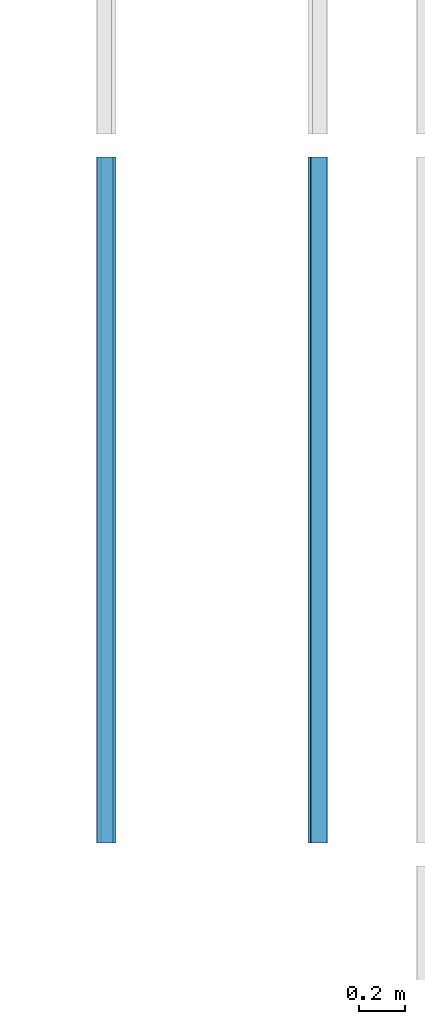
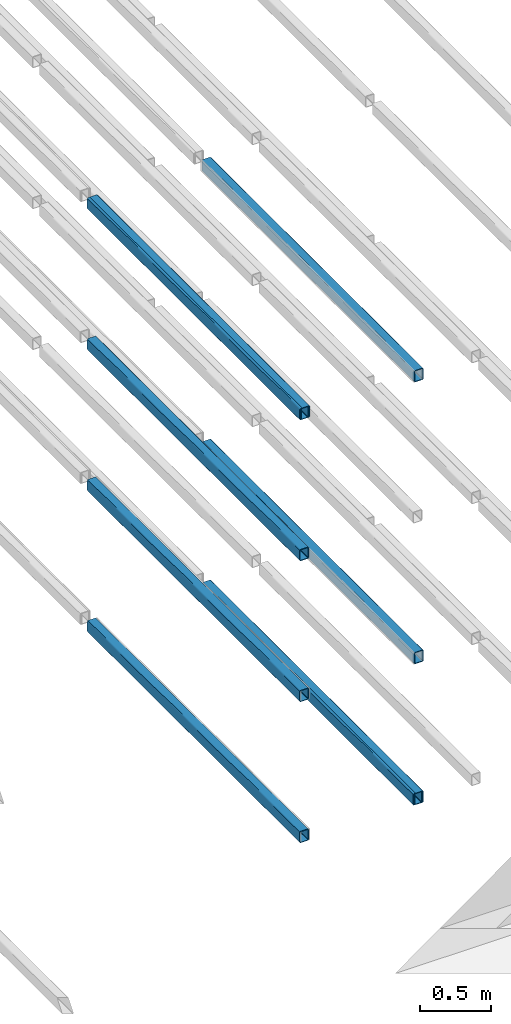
# One storey, part 20 of 290: 9 beams.
"""IFC2X3 building model written with IfcOpenShell, lengths in metres."""

import ifcopenshell
import ifcopenshell.guid

model = None  # the IFC model being written
_history = None  # IfcOwnerHistory: only IFC2X3 demands one
_inside = {}  # id of a spatial element -> (the spatial element, [elements in it])
_under = {}  # id of a project, library or spatial element -> (it, [spatial elements below it])
_declared = {}  # id of a project -> (the project, [libraries it declares])
_typed = {}  # id of a type object -> (the type object, [elements of that type])
_made_of = {}  # id of a material, layer set ... -> (it, [elements and type objects made of it])


def new_model(schema):
    """Start an empty IFC model of exactly this schema.

    Asked for "IFC4X3", IfcOpenShell would pick the latest addendum, in which some entities
    have other attributes; the version numbers below select the first issue.
    IFC2X3 requires an IfcOwnerHistory on every rooted entity: one is made here for all.
    """
    global model, _history
    if schema == "IFC4X3":
        model = ifcopenshell.file(schema_version=(4, 3, 0, 0))
    else:
        model = ifcopenshell.file(schema=schema)
    _inside.clear()
    _under.clear()
    _declared.clear()
    _typed.clear()
    _made_of.clear()
    _history = None
    if model.schema == "IFC2X3":
        org = make("IfcOrganization", Name="unknown")
        user = make(
            "IfcPersonAndOrganization",
            ThePerson=make("IfcPerson", FamilyName="unknown"),
            TheOrganization=org,
        )
        app = make(
            "IfcApplication",
            ApplicationDeveloper=org,
            Version="unknown",
            ApplicationFullName="unknown",
            ApplicationIdentifier="unknown",
        )
        _history = make(
            "IfcOwnerHistory",
            OwningUser=user,
            OwningApplication=app,
            ChangeAction="ADDED",
            CreationDate=0,
        )
    return model


def make(cls, **values):
    """One entity of the class cls with the attributes given. An attribute that is None is left unset."""
    return model.create_entity(
        cls, **{name: value for name, value in values.items() if value is not None}
    )


def entity(cls, *values):
    """Any entity or typed value of the class cls, its attributes in the order of the schema. None: left unset."""
    e = model.create_entity(cls)
    for i, value in enumerate(values):
        if value is not None:
            e[i] = value
    return e


def rooted(cls, **values):
    """An entity with a GlobalId (a new one), such as an element, a storey or a relation."""
    return make(cls, GlobalId=ifcopenshell.guid.new(), OwnerHistory=_history, **values)


def si_unit(unit_type, name, prefix=None):
    """IfcSIUnit, for example si_unit("LENGTHUNIT", "METRE", prefix="MILLI")."""
    return make("IfcSIUnit", UnitType=unit_type, Prefix=prefix, Name=name)


def converted_unit(unit_type, name, factor, base, dimensions=None, offset=None):
    """IfcConversionBasedUnit, such as the inch: factor (a typed value) times the base unit."""
    return make(
        "IfcConversionBasedUnit"
        if offset is None
        else "IfcConversionBasedUnitWithOffset",
        ConversionOffset=offset,
        Dimensions=None
        if dimensions is None
        else entity("IfcDimensionalExponents", *dimensions),
        UnitType=unit_type,
        Name=name,
        ConversionFactor=make(
            "IfcMeasureWithUnit", ValueComponent=factor, UnitComponent=base
        ),
    )


def derived_unit(unit_type, elements):
    """IfcDerivedUnit: a product of units, each with its exponent."""
    return make(
        "IfcDerivedUnit",
        Elements=[
            make("IfcDerivedUnitElement", Unit=unit, Exponent=power)
            for unit, power in elements
        ],
        UnitType=unit_type,
    )


def assignment(units):
    """IfcUnitAssignment: the units of a project."""
    return None if units is None else make("IfcUnitAssignment", Units=units)


def point(xyz):
    """IfcCartesianPoint."""
    return None if xyz is None else make("IfcCartesianPoint", Coordinates=xyz)


def direction(xyz):
    """IfcDirection."""
    return None if xyz is None else make("IfcDirection", DirectionRatios=xyz)


def frame(location, z_axis=None, x_axis=None):
    """IfcAxis2Placement3D, a coordinate frame: its origin and axes. An axis left out is left unset."""
    return make(
        "IfcAxis2Placement3D",
        Location=point(location),
        Axis=direction(z_axis),
        RefDirection=direction(x_axis),
    )


def frame_2d(location, x_axis=None):
    """IfcAxis2Placement2D, a coordinate frame in the plane: its origin and x axis."""
    return make(
        "IfcAxis2Placement2D", Location=point(location), RefDirection=direction(x_axis)
    )


def origin():
    """The frame at (0, 0, 0) with its axes left unset."""
    return frame((0.0, 0.0, 0.0))


def place(relative_to, where):
    """IfcLocalPlacement: puts the frame where relative to a parent placement (None: the world)."""
    return make(
        "IfcLocalPlacement", PlacementRelTo=relative_to, RelativePlacement=where
    )


def context(
    kind, dimensions, precision=None, world=None, true_north=None, identifier=None
):
    """IfcGeometricRepresentationContext, for example the 3D "Model" context."""
    return make(
        "IfcGeometricRepresentationContext",
        ContextIdentifier=identifier,
        ContextType=kind,
        CoordinateSpaceDimension=dimensions,
        Precision=precision,
        WorldCoordinateSystem=world,
        TrueNorth=true_north,
    )


def subcontext(parent, identifier, kind, view, scale=None):
    """IfcGeometricRepresentationSubContext, for example "Body" below "Model"."""
    return make(
        "IfcGeometricRepresentationSubContext",
        ContextIdentifier=identifier,
        ContextType=kind,
        ParentContext=parent,
        TargetScale=scale,
        TargetView=view,
    )


def project(units=None, contexts=None):
    """IfcProject with its units and contexts."""
    return rooted(
        "IfcProject",
        Name="project",
        RepresentationContexts=contexts,
        UnitsInContext=assignment(units),
    )


def spatial(cls, under=None, at=None, **own):
    """A site, building, storey or space (cls), placed at a placement, below another one or the project."""
    s = rooted(cls, ObjectPlacement=at, **own)
    if under is not None:
        _under.setdefault(under.id(), (under, []))[1].append(s)
    return s


def polyline(points):
    """IfcPolyline through the points."""
    return make("IfcPolyline", Points=[point(p) for p in points])


def circle_curve(where, radius):
    """IfcCircle in the frame where."""
    return make("IfcCircle", Position=where, Radius=radius)


def parameter(value):
    """IfcParameterValue: where a trimmed curve begins or ends, as a parameter of its basis curve."""
    return model.create_entity("IfcParameterValue", value)


def trimmed(basis, trim1, trim2, sense, master):
    """IfcTrimmedCurve: the piece of a basis curve between two trims."""
    return make(
        "IfcTrimmedCurve",
        BasisCurve=basis,
        Trim1=trim1,
        Trim2=trim2,
        SenseAgreement=sense,
        MasterRepresentation=master,
    )


def segment(curve, same_sense, transition):
    """IfcCompositeCurveSegment."""
    return make(
        "IfcCompositeCurveSegment",
        Transition=transition,
        SameSense=same_sense,
        ParentCurve=curve,
    )


def composite_curve(segments, self_intersect=None):
    """IfcCompositeCurve: segments joined end to end."""
    return make("IfcCompositeCurve", Segments=segments, SelfIntersect=self_intersect)


def outline(outer, holes=None, kind="AREA"):
    """IfcArbitraryClosedProfileDef: a profile drawn as a closed curve; with holes, ...WithVoids."""
    if holes is None:
        return make("IfcArbitraryClosedProfileDef", ProfileType=kind, OuterCurve=outer)
    return make(
        "IfcArbitraryProfileDefWithVoids",
        ProfileType=kind,
        OuterCurve=outer,
        InnerCurves=holes,
    )


def extrude(swept, where, along, depth):
    """IfcExtrudedAreaSolid: the profile swept, set in the frame where, extruded along a direction by depth."""
    return make(
        "IfcExtrudedAreaSolid",
        SweptArea=swept,
        Position=where,
        ExtrudedDirection=direction(along),
        Depth=depth,
    )


def shape(context_of_items, identifier, shape_type, items):
    """IfcShapeRepresentation: the items that make up one representation, for example the "Body"."""
    return make(
        "IfcShapeRepresentation",
        ContextOfItems=context_of_items,
        RepresentationIdentifier=identifier,
        RepresentationType=shape_type,
        Items=items,
    )


def material(Name=None, Category=None):
    """IfcMaterial."""
    return make("IfcMaterial", Name=Name, Category=Category)


def made_of(thing, what):
    """Note that an element or type object is made of a material, layer set ...; save() writes the relation."""
    if what is not None:
        _made_of.setdefault(what.id(), (what, []))[1].append(thing)
    return thing


def type_object(cls, material=None, **own):
    """A type object (cls), such as IfcWallType, which elements share."""
    return made_of(rooted(cls, **own), material)


def element(
    cls,
    number,
    at=None,
    inside=None,
    cuts=None,
    type_object=None,
    material=None,
    context=None,
    identifier="Body",
    shape_type=None,
    held_by="IfcProductDefinitionShape",
    body=None,
    shapes=None,
    **own,
):
    """One element of the class cls, such as IfcWall. Its Tag is "e" and its number.

    at: its placement. inside: the storey or other place that contains it. cuts: it is an
    opening in that element (IfcRelVoidsElement). A single representation is given by context,
    identifier, shape_type and body (its items); several are given by shapes. held_by: the class
    of the entity that holds the representations. save() writes the other relations.
    """
    e = rooted(cls, Tag="e%d" % number, ObjectPlacement=at, **own)
    if body is not None:
        shapes = [shape(context, identifier, shape_type, body)]
    if shapes is not None:
        e.Representation = make(held_by, Representations=shapes)
    if inside is not None:
        _inside.setdefault(inside.id(), (inside, []))[1].append(e)
    if cuts is not None:
        rooted(
            "IfcRelVoidsElement", RelatingBuildingElement=cuts, RelatedOpeningElement=e
        )
    if type_object is not None:
        _typed.setdefault(type_object.id(), (type_object, []))[1].append(e)
    return made_of(e, material)


def aggregate(whole, parts):
    """IfcRelAggregates: a whole, such as a stair, and the parts it consists of."""
    return rooted("IfcRelAggregates", RelatingObject=whole, RelatedObjects=parts)


def save(model, path):
    """Write the relations noted so far, then the file.

    IfcRelAggregates (storeys below a building ...), IfcRelContainedInSpatialStructure (elements
    in a storey), IfcRelDefinesByType, IfcRelAssociatesMaterial and IfcRelDeclares: one each for
    every whole, place, type object, material and project.
    """
    for whole, parts in _under.values():
        aggregate(whole, parts)
    for where, things in _inside.values():
        rooted(
            "IfcRelContainedInSpatialStructure",
            RelatedElements=things,
            RelatingStructure=where,
        )
    for kind, things in _typed.values():
        rooted("IfcRelDefinesByType", RelatedObjects=things, RelatingType=kind)
    for what, things in _made_of.values():
        rooted("IfcRelAssociatesMaterial", RelatedObjects=things, RelatingMaterial=what)
    for by, libraries in _declared.values():
        rooted("IfcRelDeclares", RelatingContext=by, RelatedDefinitions=libraries)
    model.write(path)


model = new_model("IFC2X3")

# Units and contexts
model_context = context("Model", 3, precision=1e-05, world=origin(), true_north=direction((6.12303176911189e-17, 1.0)))
body_context = subcontext(model_context, "Body", "Model", "MODEL_VIEW")
ifc_project = project(units=[si_unit("LENGTHUNIT", "METRE"), si_unit("AREAUNIT", "SQUARE_METRE"), si_unit("VOLUMEUNIT", "CUBIC_METRE"), converted_unit("PLANEANGLEUNIT", "DEGREE", entity("IfcRatioMeasure", 0.0174532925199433), si_unit("PLANEANGLEUNIT", "RADIAN"), dimensions=[0, 0, 0, 0, 0, 0, 0]), si_unit("MASSUNIT", "GRAM", prefix="KILO"), derived_unit("MASSDENSITYUNIT", [(si_unit("MASSUNIT", "GRAM", prefix="KILO"), 1), (si_unit("LENGTHUNIT", "METRE"), -3)]), derived_unit("MOMENTOFINERTIAUNIT", [(si_unit("LENGTHUNIT", "METRE"), 4)]), si_unit("TIMEUNIT", "SECOND"), si_unit("FREQUENCYUNIT", "HERTZ"), si_unit("THERMODYNAMICTEMPERATUREUNIT", "DEGREE_CELSIUS"), derived_unit("THERMALTRANSMITTANCEUNIT", [(si_unit("MASSUNIT", "GRAM", prefix="KILO"), 1), (si_unit("THERMODYNAMICTEMPERATUREUNIT", "KELVIN"), -1), (si_unit("TIMEUNIT", "SECOND"), -3)]), derived_unit("VOLUMETRICFLOWRATEUNIT", [(si_unit("LENGTHUNIT", "METRE"), 3), (si_unit("TIMEUNIT", "SECOND"), -1)]), si_unit("ELECTRICCURRENTUNIT", "AMPERE"), si_unit("ELECTRICVOLTAGEUNIT", "VOLT"), si_unit("POWERUNIT", "WATT"), si_unit("FORCEUNIT", "NEWTON", prefix="KILO"), si_unit("ILLUMINANCEUNIT", "LUX"), si_unit("LUMINOUSFLUXUNIT", "LUMEN"), si_unit("LUMINOUSINTENSITYUNIT", "CANDELA"), derived_unit("USERDEFINED", [(si_unit("MASSUNIT", "GRAM", prefix="KILO"), -1), (si_unit("LENGTHUNIT", "METRE"), -2), (si_unit("TIMEUNIT", "SECOND"), 3), (si_unit("LUMINOUSFLUXUNIT", "LUMEN"), 1)]), derived_unit("LINEARVELOCITYUNIT", [(si_unit("LENGTHUNIT", "METRE"), 1), (si_unit("TIMEUNIT", "SECOND"), -1)]), si_unit("PRESSUREUNIT", "PASCAL"), derived_unit("USERDEFINED", [(si_unit("LENGTHUNIT", "METRE"), -2), (si_unit("MASSUNIT", "GRAM", prefix="KILO"), 1), (si_unit("TIMEUNIT", "SECOND"), -2)]), derived_unit("LINEARFORCEUNIT", [(si_unit("MASSUNIT", "GRAM", prefix="KILO"), 1), (si_unit("LENGTHUNIT", "METRE"), 1), (si_unit("TIMEUNIT", "SECOND"), -2), (si_unit("LENGTHUNIT", "METRE"), -1)]), derived_unit("PLANARFORCEUNIT", [(si_unit("MASSUNIT", "GRAM", prefix="KILO"), 1), (si_unit("LENGTHUNIT", "METRE"), 1), (si_unit("TIMEUNIT", "SECOND"), -2), (si_unit("LENGTHUNIT", "METRE"), -2)])], contexts=[model_context])

# Site, building, storey
site_placement = place(None, origin())
site = spatial("IfcSite", under=ifc_project, at=site_placement, Name="Default", CompositionType="ELEMENT")
building_placement = place(site_placement, origin())
building = spatial("IfcBuilding", under=site, at=building_placement, CompositionType="ELEMENT")
storey_placement = place(building_placement, frame((0.0, 0.0, 4.0)))
storey = spatial("IfcBuildingStorey", under=building, at=storey_placement, Name="01_OG", CompositionType="ELEMENT", Elevation=4.0)

# Beams
ifc_material = material(Name="Metall - Baustahl S235 blau")
beam_type = type_object("IfcBeamType", Name="RHS Träger (EN 10219-2):RHS 100 x 75 x 5", PredefinedType="NOTDEFINED")
beam_1_placement = place(storey_placement, frame((-202.105111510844, 27.148088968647, 2.445), z_axis=(0.0, 0.0, 1.0), x_axis=(0.0, 1.0, 0.0)))
element("IfcBeam", 1, at=beam_1_placement, inside=storey, type_object=beam_type, material=ifc_material, Name="RHS Träger (EN 10219-2):RHS 100 x 75 x 5", ObjectType="RHS Träger (EN 10219-2):RHS 100 x 75 x 5", context=body_context, shape_type="SweptSolid", body=[
    extrude(outline(composite_curve([segment(trimmed(circle_curve(frame_2d((-0.0274999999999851, -0.0399999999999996), x_axis=(1.0, 0.0)), 0.01), [parameter(180.0)], [parameter(270.0)], True, "PARAMETER"), True, "CONTINUOUS"), segment(polyline([(-0.0274999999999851, -0.0499999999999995), (0.0274999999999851, -0.0499999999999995)]), True, "CONTINUOUS"), segment(trimmed(circle_curve(frame_2d((0.0274999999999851, -0.0399999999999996), x_axis=(1.0, 0.0)), 0.01), [parameter(270.0)], [parameter(5.08888749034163e-14)], True, "PARAMETER"), True, "CONTINUOUS"), segment(polyline([(0.0375000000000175, -0.0399999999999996), (0.0375000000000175, 0.0399999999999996)]), True, "CONTINUOUS"), segment(trimmed(circle_curve(frame_2d((0.0274999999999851, 0.0399999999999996), x_axis=(1.0, 0.0)), 0.01), [parameter(360.0)], [parameter(89.9999999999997)], True, "PARAMETER"), True, "CONTINUOUS"), segment(polyline([(0.0274999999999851, 0.0500000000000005), (-0.0274999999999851, 0.0500000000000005)]), True, "CONTINUOUS"), segment(trimmed(circle_curve(frame_2d((-0.0274999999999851, 0.0399999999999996), x_axis=(1.0, 0.0)), 0.01), [parameter(90.0000000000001)], [parameter(180.0)], True, "PARAMETER"), True, "CONTINUOUS"), segment(polyline([(-0.0374999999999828, 0.0399999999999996), (-0.0374999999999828, -0.0399999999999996)]), True, "CONTINUOUS")], self_intersect=False), holes=[composite_curve([segment(polyline([(0.0274999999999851, -0.0450000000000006), (-0.0274999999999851, -0.0450000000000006)]), True, "CONTINUOUS"), segment(trimmed(circle_curve(frame_2d((-0.0274999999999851, -0.0400000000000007), x_axis=(1.0, 0.0)), 0.005), [parameter(180.0)], [parameter(270.0)], True, "PARAMETER"), False, "CONTINUOUS"), segment(polyline([(-0.0325000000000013, -0.0400000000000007), (-0.0325000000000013, 0.0399999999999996)]), True, "CONTINUOUS"), segment(trimmed(circle_curve(frame_2d((-0.0274999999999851, 0.0399999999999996), x_axis=(1.0, 0.0)), 0.005), [parameter(90.0000000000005)], [parameter(180.0)], True, "PARAMETER"), False, "CONTINUOUS"), segment(polyline([(-0.0274999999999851, 0.0449999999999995), (0.0274999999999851, 0.0449999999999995)]), True, "CONTINUOUS"), segment(trimmed(circle_curve(frame_2d((0.0274999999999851, 0.0399999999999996), x_axis=(1.0, 0.0)), 0.005), [parameter(0.0)], [parameter(90.0000000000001)], True, "PARAMETER"), False, "CONTINUOUS"), segment(polyline([(0.0325000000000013, 0.0399999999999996), (0.0325000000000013, -0.0400000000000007)]), True, "CONTINUOUS"), segment(trimmed(circle_curve(frame_2d((0.0274999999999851, -0.0400000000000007), x_axis=(1.0, 0.0)), 0.005), [parameter(270.0)], [parameter(4.07110999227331e-13)], True, "PARAMETER"), False, "CONTINUOUS")], self_intersect=False)]), frame((0.000100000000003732, 0.0375000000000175, -0.0500000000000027), z_axis=(1.0, 0.0, 0.0), x_axis=(0.0, -1.0, 0.0)), (0.0, 0.0, 1.0), 2.9998),
])
beam_2_placement = place(storey_placement, frame((-201.255111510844, 27.148088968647, -1.2), z_axis=(0.0, 0.0, 1.0), x_axis=(0.0, 1.0, 0.0)))
element("IfcBeam", 2, at=beam_2_placement, inside=storey, type_object=beam_type, material=ifc_material, Name="RHS Träger (EN 10219-2):RHS 100 x 75 x 5", ObjectType="RHS Träger (EN 10219-2):RHS 100 x 75 x 5", context=body_context, shape_type="SweptSolid", body=[
    extrude(outline(composite_curve([segment(polyline([(-0.0400000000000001, -0.0374999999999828), (0.0400000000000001, -0.0374999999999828)]), True, "CONTINUOUS"), segment(trimmed(circle_curve(frame_2d((0.0400000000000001, -0.0274999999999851), x_axis=(0.0, 1.0)), 0.01), [parameter(180.0)], [parameter(270.0)], True, "PARAMETER"), True, "CONTINUOUS"), segment(polyline([(0.05, -0.0274999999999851), (0.05, 0.0274999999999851)]), True, "CONTINUOUS"), segment(trimmed(circle_curve(frame_2d((0.0400000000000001, 0.0274999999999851), x_axis=(0.0, 1.0)), 0.01), [parameter(270.0)], [parameter(4.07110999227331e-13)], True, "PARAMETER"), True, "CONTINUOUS"), segment(polyline([(0.0400000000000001, 0.0375000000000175), (-0.0400000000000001, 0.0375000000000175)]), True, "CONTINUOUS"), segment(trimmed(circle_curve(frame_2d((-0.0400000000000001, 0.0274999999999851), x_axis=(0.0, 1.0)), 0.01), [parameter(360.0)], [parameter(90.0000000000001)], True, "PARAMETER"), True, "CONTINUOUS"), segment(polyline([(-0.05, 0.0274999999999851), (-0.05, -0.0274999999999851)]), True, "CONTINUOUS"), segment(trimmed(circle_curve(frame_2d((-0.0400000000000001, -0.0274999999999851), x_axis=(0.0, 1.0)), 0.01), [parameter(90.0000000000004)], [parameter(180.0)], True, "PARAMETER"), True, "CONTINUOUS")], self_intersect=False), holes=[composite_curve([segment(trimmed(circle_curve(frame_2d((-0.0400000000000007, 0.0274999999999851), x_axis=(0.0, 1.0)), 0.005), [parameter(360.0)], [parameter(89.9999999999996)], True, "PARAMETER"), False, "CONTINUOUS"), segment(polyline([(-0.0400000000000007, 0.0325000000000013), (0.039999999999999, 0.0325000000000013)]), True, "CONTINUOUS"), segment(trimmed(circle_curve(frame_2d((0.039999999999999, 0.0274999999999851), x_axis=(0.0, 1.0)), 0.005), [parameter(270.0)], [parameter(0.0)], True, "PARAMETER"), False, "CONTINUOUS"), segment(polyline([(0.044999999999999, 0.0274999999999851), (0.044999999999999, -0.0274999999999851)]), True, "CONTINUOUS"), segment(trimmed(circle_curve(frame_2d((0.039999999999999, -0.0274999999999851), x_axis=(0.0, 1.0)), 0.005), [parameter(180.0)], [parameter(269.999999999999)], True, "PARAMETER"), False, "CONTINUOUS"), segment(polyline([(0.039999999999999, -0.0325000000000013), (-0.0400000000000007, -0.0325000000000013)]), True, "CONTINUOUS"), segment(trimmed(circle_curve(frame_2d((-0.0400000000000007, -0.0274999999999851), x_axis=(0.0, 1.0)), 0.005), [parameter(90.0000000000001)], [parameter(180.0)], True, "PARAMETER"), False, "CONTINUOUS"), segment(polyline([(-0.0450000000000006, -0.0274999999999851), (-0.0450000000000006, 0.0274999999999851)]), True, "CONTINUOUS")], self_intersect=False)]), frame((0.000100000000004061, -0.0375000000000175, -0.0500000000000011), z_axis=(1.0, 0.0, 0.0), x_axis=(0.0, 0.0, -1.0)), (0.0, 0.0, 1.0), 2.9998),
])
beam_3_placement = place(storey_placement, frame((-201.255111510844, 27.148088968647, 0.0150000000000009), z_axis=(0.0, 0.0, 1.0), x_axis=(0.0, 1.0, 0.0)))
element("IfcBeam", 3, at=beam_3_placement, inside=storey, type_object=beam_type, material=ifc_material, Name="RHS Träger (EN 10219-2):RHS 100 x 75 x 5", ObjectType="RHS Träger (EN 10219-2):RHS 100 x 75 x 5", context=body_context, shape_type="SweptSolid", body=[
    extrude(outline(composite_curve([segment(polyline([(-0.0400000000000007, -0.0374999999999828), (0.0399999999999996, -0.0374999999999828)]), True, "CONTINUOUS"), segment(trimmed(circle_curve(frame_2d((0.0399999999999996, -0.0274999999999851), x_axis=(0.0, 1.0)), 0.01), [parameter(180.0)], [parameter(270.0)], True, "PARAMETER"), True, "CONTINUOUS"), segment(polyline([(0.0499999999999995, -0.0274999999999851), (0.0499999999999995, 0.0274999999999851)]), True, "CONTINUOUS"), segment(trimmed(circle_curve(frame_2d((0.0399999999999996, 0.0274999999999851), x_axis=(0.0, 1.0)), 0.01), [parameter(270.0)], [parameter(4.07110999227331e-13)], True, "PARAMETER"), True, "CONTINUOUS"), segment(polyline([(0.0399999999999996, 0.0375000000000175), (-0.0400000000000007, 0.0375000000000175)]), True, "CONTINUOUS"), segment(trimmed(circle_curve(frame_2d((-0.0400000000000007, 0.0274999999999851), x_axis=(0.0, 1.0)), 0.01), [parameter(360.0)], [parameter(90.0000000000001)], True, "PARAMETER"), True, "CONTINUOUS"), segment(polyline([(-0.0500000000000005, 0.0274999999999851), (-0.0500000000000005, -0.0274999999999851)]), True, "CONTINUOUS"), segment(trimmed(circle_curve(frame_2d((-0.0400000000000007, -0.0274999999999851), x_axis=(0.0, 1.0)), 0.01), [parameter(90.0000000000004)], [parameter(180.0)], True, "PARAMETER"), True, "CONTINUOUS")], self_intersect=False), holes=[composite_curve([segment(trimmed(circle_curve(frame_2d((-0.0400000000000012, 0.0274999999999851), x_axis=(0.0, 1.0)), 0.005), [parameter(360.0)], [parameter(89.9999999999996)], True, "PARAMETER"), False, "CONTINUOUS"), segment(polyline([(-0.0400000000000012, 0.0325000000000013), (0.0399999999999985, 0.0325000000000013)]), True, "CONTINUOUS"), segment(trimmed(circle_curve(frame_2d((0.0399999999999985, 0.0274999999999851), x_axis=(0.0, 1.0)), 0.005), [parameter(270.0)], [parameter(0.0)], True, "PARAMETER"), False, "CONTINUOUS"), segment(polyline([(0.0449999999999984, 0.0274999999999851), (0.0449999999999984, -0.0274999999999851)]), True, "CONTINUOUS"), segment(trimmed(circle_curve(frame_2d((0.0399999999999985, -0.0274999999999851), x_axis=(0.0, 1.0)), 0.005), [parameter(180.0)], [parameter(269.999999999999)], True, "PARAMETER"), False, "CONTINUOUS"), segment(polyline([(0.0399999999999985, -0.0325000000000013), (-0.0400000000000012, -0.0325000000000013)]), True, "CONTINUOUS"), segment(trimmed(circle_curve(frame_2d((-0.0400000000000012, -0.0274999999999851), x_axis=(0.0, 1.0)), 0.005), [parameter(90.0000000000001)], [parameter(180.0)], True, "PARAMETER"), False, "CONTINUOUS"), segment(polyline([(-0.0450000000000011, -0.0274999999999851), (-0.0450000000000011, 0.0274999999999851)]), True, "CONTINUOUS")], self_intersect=False)]), frame((0.000100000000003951, -0.0375000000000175, -0.0500000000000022), z_axis=(1.0, 0.0, 0.0), x_axis=(0.0, 0.0, -1.0)), (0.0, 0.0, 1.0), 2.9998),
])
beam_4_placement = place(storey_placement, frame((-201.255111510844, 27.148088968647, 2.445), z_axis=(0.0, 0.0, 1.0), x_axis=(0.0, 1.0, 0.0)))
element("IfcBeam", 4, at=beam_4_placement, inside=storey, type_object=beam_type, material=ifc_material, Name="RHS Träger (EN 10219-2):RHS 100 x 75 x 5", ObjectType="RHS Träger (EN 10219-2):RHS 100 x 75 x 5", context=body_context, shape_type="SweptSolid", body=[
    extrude(outline(composite_curve([segment(polyline([(-0.0399999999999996, -0.0374999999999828), (0.0399999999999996, -0.0374999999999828)]), True, "CONTINUOUS"), segment(trimmed(circle_curve(frame_2d((0.0399999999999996, -0.0274999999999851), x_axis=(0.0, 1.0)), 0.01), [parameter(180.0)], [parameter(270.0)], True, "PARAMETER"), True, "CONTINUOUS"), segment(polyline([(0.0500000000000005, -0.0274999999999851), (0.0500000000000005, 0.0274999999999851)]), True, "CONTINUOUS"), segment(trimmed(circle_curve(frame_2d((0.0399999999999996, 0.0274999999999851), x_axis=(0.0, 1.0)), 0.01), [parameter(270.0)], [parameter(4.07110999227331e-13)], True, "PARAMETER"), True, "CONTINUOUS"), segment(polyline([(0.0399999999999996, 0.0375000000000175), (-0.0399999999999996, 0.0375000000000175)]), True, "CONTINUOUS"), segment(trimmed(circle_curve(frame_2d((-0.0399999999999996, 0.0274999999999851), x_axis=(0.0, 1.0)), 0.01), [parameter(360.0)], [parameter(90.0000000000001)], True, "PARAMETER"), True, "CONTINUOUS"), segment(polyline([(-0.0499999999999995, 0.0274999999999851), (-0.0499999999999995, -0.0274999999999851)]), True, "CONTINUOUS"), segment(trimmed(circle_curve(frame_2d((-0.0399999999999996, -0.0274999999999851), x_axis=(0.0, 1.0)), 0.01), [parameter(90.0000000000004)], [parameter(180.0)], True, "PARAMETER"), True, "CONTINUOUS")], self_intersect=False), holes=[composite_curve([segment(trimmed(circle_curve(frame_2d((-0.0400000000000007, 0.0274999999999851), x_axis=(0.0, 1.0)), 0.005), [parameter(360.0)], [parameter(89.9999999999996)], True, "PARAMETER"), False, "CONTINUOUS"), segment(polyline([(-0.0400000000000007, 0.0325000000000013), (0.0399999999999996, 0.0325000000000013)]), True, "CONTINUOUS"), segment(trimmed(circle_curve(frame_2d((0.0399999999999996, 0.0274999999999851), x_axis=(0.0, 1.0)), 0.005), [parameter(270.0)], [parameter(0.0)], True, "PARAMETER"), False, "CONTINUOUS"), segment(polyline([(0.0449999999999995, 0.0274999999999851), (0.0449999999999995, -0.0274999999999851)]), True, "CONTINUOUS"), segment(trimmed(circle_curve(frame_2d((0.0399999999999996, -0.0274999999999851), x_axis=(0.0, 1.0)), 0.005), [parameter(180.0)], [parameter(269.999999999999)], True, "PARAMETER"), False, "CONTINUOUS"), segment(polyline([(0.0399999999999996, -0.0325000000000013), (-0.0400000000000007, -0.0325000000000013)]), True, "CONTINUOUS"), segment(trimmed(circle_curve(frame_2d((-0.0400000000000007, -0.0274999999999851), x_axis=(0.0, 1.0)), 0.005), [parameter(90.0000000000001)], [parameter(180.0)], True, "PARAMETER"), False, "CONTINUOUS"), segment(polyline([(-0.0450000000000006, -0.0274999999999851), (-0.0450000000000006, 0.0274999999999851)]), True, "CONTINUOUS")], self_intersect=False)]), frame((0.000100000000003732, -0.0375000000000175, -0.0500000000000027), z_axis=(1.0, 0.0, 0.0), x_axis=(0.0, 0.0, -1.0)), (0.0, 0.0, 1.0), 2.9998),
])
beam_5_placement = place(storey_placement, frame((-202.115111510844, 27.148088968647, -1.2), z_axis=(0.0, 0.0, 1.0), x_axis=(0.0, 1.0, 0.0)))
element("IfcBeam", 5, at=beam_5_placement, inside=storey, type_object=beam_type, material=ifc_material, Name="RHS Träger (EN 10219-2):RHS 100 x 75 x 5", ObjectType="RHS Träger (EN 10219-2):RHS 100 x 75 x 5", context=body_context, shape_type="SweptSolid", body=[
    extrude(outline(composite_curve([segment(trimmed(circle_curve(frame_2d((-0.0274999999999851, -0.0400000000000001), x_axis=(1.0, 0.0)), 0.01), [parameter(180.0)], [parameter(270.0)], True, "PARAMETER"), True, "CONTINUOUS"), segment(polyline([(-0.0274999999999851, -0.05), (0.0274999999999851, -0.05)]), True, "CONTINUOUS"), segment(trimmed(circle_curve(frame_2d((0.0274999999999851, -0.0400000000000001), x_axis=(1.0, 0.0)), 0.01), [parameter(270.0)], [parameter(5.08888749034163e-14)], True, "PARAMETER"), True, "CONTINUOUS"), segment(polyline([(0.0375000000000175, -0.0400000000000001), (0.0375000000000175, 0.0400000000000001)]), True, "CONTINUOUS"), segment(trimmed(circle_curve(frame_2d((0.0274999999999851, 0.0400000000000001), x_axis=(1.0, 0.0)), 0.01), [parameter(360.0)], [parameter(89.9999999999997)], True, "PARAMETER"), True, "CONTINUOUS"), segment(polyline([(0.0274999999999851, 0.05), (-0.0274999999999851, 0.05)]), True, "CONTINUOUS"), segment(trimmed(circle_curve(frame_2d((-0.0274999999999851, 0.0400000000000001), x_axis=(1.0, 0.0)), 0.01), [parameter(90.0000000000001)], [parameter(180.0)], True, "PARAMETER"), True, "CONTINUOUS"), segment(polyline([(-0.0374999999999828, 0.0400000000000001), (-0.0374999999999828, -0.0400000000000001)]), True, "CONTINUOUS")], self_intersect=False), holes=[composite_curve([segment(polyline([(0.0274999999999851, -0.0450000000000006), (-0.0274999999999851, -0.0450000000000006)]), True, "CONTINUOUS"), segment(trimmed(circle_curve(frame_2d((-0.0274999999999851, -0.0400000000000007), x_axis=(1.0, 0.0)), 0.005), [parameter(180.0)], [parameter(270.0)], True, "PARAMETER"), False, "CONTINUOUS"), segment(polyline([(-0.0325000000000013, -0.0400000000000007), (-0.0325000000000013, 0.039999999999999)]), True, "CONTINUOUS"), segment(trimmed(circle_curve(frame_2d((-0.0274999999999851, 0.039999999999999), x_axis=(1.0, 0.0)), 0.005), [parameter(90.0000000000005)], [parameter(180.0)], True, "PARAMETER"), False, "CONTINUOUS"), segment(polyline([(-0.0274999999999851, 0.044999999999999), (0.0274999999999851, 0.044999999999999)]), True, "CONTINUOUS"), segment(trimmed(circle_curve(frame_2d((0.0274999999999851, 0.039999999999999), x_axis=(1.0, 0.0)), 0.005), [parameter(0.0)], [parameter(90.0000000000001)], True, "PARAMETER"), False, "CONTINUOUS"), segment(polyline([(0.0325000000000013, 0.039999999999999), (0.0325000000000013, -0.0400000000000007)]), True, "CONTINUOUS"), segment(trimmed(circle_curve(frame_2d((0.0274999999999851, -0.0400000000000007), x_axis=(1.0, 0.0)), 0.005), [parameter(270.0)], [parameter(4.07110999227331e-13)], True, "PARAMETER"), False, "CONTINUOUS")], self_intersect=False)]), frame((0.000100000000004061, 0.0375000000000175, -0.0500000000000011), z_axis=(1.0, 0.0, 0.0), x_axis=(0.0, -1.0, 0.0)), (0.0, 0.0, 1.0), 2.9998),
])
beam_6_placement = place(storey_placement, frame((-202.115111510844, 27.148088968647, 0.0150000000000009), z_axis=(0.0, 0.0, 1.0), x_axis=(0.0, 1.0, 0.0)))
element("IfcBeam", 6, at=beam_6_placement, inside=storey, type_object=beam_type, material=ifc_material, Name="RHS Träger (EN 10219-2):RHS 100 x 75 x 5", ObjectType="RHS Träger (EN 10219-2):RHS 100 x 75 x 5", context=body_context, shape_type="SweptSolid", body=[
    extrude(outline(composite_curve([segment(trimmed(circle_curve(frame_2d((-0.0274999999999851, -0.0400000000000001), x_axis=(1.0, 0.0)), 0.01), [parameter(180.0)], [parameter(270.0)], True, "PARAMETER"), True, "CONTINUOUS"), segment(polyline([(-0.0274999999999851, -0.05), (0.0274999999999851, -0.05)]), True, "CONTINUOUS"), segment(trimmed(circle_curve(frame_2d((0.0274999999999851, -0.0400000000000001), x_axis=(1.0, 0.0)), 0.01), [parameter(270.0)], [parameter(5.08888749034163e-14)], True, "PARAMETER"), True, "CONTINUOUS"), segment(polyline([(0.0375000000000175, -0.0400000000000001), (0.0375000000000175, 0.0400000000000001)]), True, "CONTINUOUS"), segment(trimmed(circle_curve(frame_2d((0.0274999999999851, 0.0400000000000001), x_axis=(1.0, 0.0)), 0.01), [parameter(360.0)], [parameter(89.9999999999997)], True, "PARAMETER"), True, "CONTINUOUS"), segment(polyline([(0.0274999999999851, 0.05), (-0.0274999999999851, 0.05)]), True, "CONTINUOUS"), segment(trimmed(circle_curve(frame_2d((-0.0274999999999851, 0.0400000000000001), x_axis=(1.0, 0.0)), 0.01), [parameter(90.0000000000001)], [parameter(180.0)], True, "PARAMETER"), True, "CONTINUOUS"), segment(polyline([(-0.0374999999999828, 0.0400000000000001), (-0.0374999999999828, -0.0400000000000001)]), True, "CONTINUOUS")], self_intersect=False), holes=[composite_curve([segment(polyline([(0.0274999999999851, -0.0450000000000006), (-0.0274999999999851, -0.0450000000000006)]), True, "CONTINUOUS"), segment(trimmed(circle_curve(frame_2d((-0.0274999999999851, -0.0400000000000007), x_axis=(1.0, 0.0)), 0.005), [parameter(180.0)], [parameter(270.0)], True, "PARAMETER"), False, "CONTINUOUS"), segment(polyline([(-0.0325000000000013, -0.0400000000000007), (-0.0325000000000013, 0.039999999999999)]), True, "CONTINUOUS"), segment(trimmed(circle_curve(frame_2d((-0.0274999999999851, 0.039999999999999), x_axis=(1.0, 0.0)), 0.005), [parameter(90.0000000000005)], [parameter(180.0)], True, "PARAMETER"), False, "CONTINUOUS"), segment(polyline([(-0.0274999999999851, 0.044999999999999), (0.0274999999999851, 0.044999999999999)]), True, "CONTINUOUS"), segment(trimmed(circle_curve(frame_2d((0.0274999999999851, 0.039999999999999), x_axis=(1.0, 0.0)), 0.005), [parameter(0.0)], [parameter(90.0000000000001)], True, "PARAMETER"), False, "CONTINUOUS"), segment(polyline([(0.0325000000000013, 0.039999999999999), (0.0325000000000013, -0.0400000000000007)]), True, "CONTINUOUS"), segment(trimmed(circle_curve(frame_2d((0.0274999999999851, -0.0400000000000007), x_axis=(1.0, 0.0)), 0.005), [parameter(270.0)], [parameter(4.07110999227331e-13)], True, "PARAMETER"), False, "CONTINUOUS")], self_intersect=False)]), frame((0.000100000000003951, 0.0375000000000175, -0.0500000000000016), z_axis=(1.0, 0.0, 0.0), x_axis=(0.0, -1.0, 0.0)), (0.0, 0.0, 1.0), 2.9998),
])
beam_7_placement = place(storey_placement, frame((-202.115111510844, 27.148088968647, 1.23), z_axis=(0.0, 0.0, 1.0), x_axis=(0.0, 1.0, 0.0)))
element("IfcBeam", 7, at=beam_7_placement, inside=storey, type_object=beam_type, material=ifc_material, Name="RHS Träger (EN 10219-2):RHS 100 x 75 x 5", ObjectType="RHS Träger (EN 10219-2):RHS 100 x 75 x 5", context=body_context, shape_type="SweptSolid", body=[
    extrude(outline(composite_curve([segment(trimmed(circle_curve(frame_2d((-0.0274999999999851, -0.0399999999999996), x_axis=(1.0, 0.0)), 0.01), [parameter(180.0)], [parameter(270.0)], True, "PARAMETER"), True, "CONTINUOUS"), segment(polyline([(-0.0274999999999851, -0.0499999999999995), (0.0274999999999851, -0.0499999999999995)]), True, "CONTINUOUS"), segment(trimmed(circle_curve(frame_2d((0.0274999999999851, -0.0399999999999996), x_axis=(1.0, 0.0)), 0.01), [parameter(270.0)], [parameter(5.08888749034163e-14)], True, "PARAMETER"), True, "CONTINUOUS"), segment(polyline([(0.0375000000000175, -0.0399999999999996), (0.0375000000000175, 0.0399999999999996)]), True, "CONTINUOUS"), segment(trimmed(circle_curve(frame_2d((0.0274999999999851, 0.0399999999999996), x_axis=(1.0, 0.0)), 0.01), [parameter(360.0)], [parameter(89.9999999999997)], True, "PARAMETER"), True, "CONTINUOUS"), segment(polyline([(0.0274999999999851, 0.0500000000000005), (-0.0274999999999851, 0.0500000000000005)]), True, "CONTINUOUS"), segment(trimmed(circle_curve(frame_2d((-0.0274999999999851, 0.0399999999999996), x_axis=(1.0, 0.0)), 0.01), [parameter(90.0000000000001)], [parameter(180.0)], True, "PARAMETER"), True, "CONTINUOUS"), segment(polyline([(-0.0374999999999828, 0.0399999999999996), (-0.0374999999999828, -0.0399999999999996)]), True, "CONTINUOUS")], self_intersect=False), holes=[composite_curve([segment(polyline([(0.0274999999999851, -0.0450000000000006), (-0.0274999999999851, -0.0450000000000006)]), True, "CONTINUOUS"), segment(trimmed(circle_curve(frame_2d((-0.0274999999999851, -0.0400000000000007), x_axis=(1.0, 0.0)), 0.005), [parameter(180.0)], [parameter(270.0)], True, "PARAMETER"), False, "CONTINUOUS"), segment(polyline([(-0.0325000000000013, -0.0400000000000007), (-0.0325000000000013, 0.0399999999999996)]), True, "CONTINUOUS"), segment(trimmed(circle_curve(frame_2d((-0.0274999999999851, 0.0399999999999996), x_axis=(1.0, 0.0)), 0.005), [parameter(90.0000000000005)], [parameter(180.0)], True, "PARAMETER"), False, "CONTINUOUS"), segment(polyline([(-0.0274999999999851, 0.0449999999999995), (0.0274999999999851, 0.0449999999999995)]), True, "CONTINUOUS"), segment(trimmed(circle_curve(frame_2d((0.0274999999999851, 0.0399999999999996), x_axis=(1.0, 0.0)), 0.005), [parameter(0.0)], [parameter(90.0000000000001)], True, "PARAMETER"), False, "CONTINUOUS"), segment(polyline([(0.0325000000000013, 0.0399999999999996), (0.0325000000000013, -0.0400000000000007)]), True, "CONTINUOUS"), segment(trimmed(circle_curve(frame_2d((0.0274999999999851, -0.0400000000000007), x_axis=(1.0, 0.0)), 0.005), [parameter(270.0)], [parameter(4.07110999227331e-13)], True, "PARAMETER"), False, "CONTINUOUS")], self_intersect=False)]), frame((0.000100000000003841, 0.0375000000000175, -0.0500000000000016), z_axis=(1.0, 0.0, 0.0), x_axis=(0.0, -1.0, 0.0)), (0.0, 0.0, 1.0), 2.9998),
])
beam_8_placement = place(storey_placement, frame((-202.115111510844, 27.148088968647, 2.445), z_axis=(0.0, 0.0, 1.0), x_axis=(0.0, 1.0, 0.0)))
element("IfcBeam", 8, at=beam_8_placement, inside=storey, type_object=beam_type, material=ifc_material, Name="RHS Träger (EN 10219-2):RHS 100 x 75 x 5", ObjectType="RHS Träger (EN 10219-2):RHS 100 x 75 x 5", context=body_context, shape_type="SweptSolid", body=[
    extrude(outline(composite_curve([segment(trimmed(circle_curve(frame_2d((-0.0274999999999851, -0.0399999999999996), x_axis=(1.0, 0.0)), 0.01), [parameter(180.0)], [parameter(270.0)], True, "PARAMETER"), True, "CONTINUOUS"), segment(polyline([(-0.0274999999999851, -0.0499999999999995), (0.0274999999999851, -0.0499999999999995)]), True, "CONTINUOUS"), segment(trimmed(circle_curve(frame_2d((0.0274999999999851, -0.0399999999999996), x_axis=(1.0, 0.0)), 0.01), [parameter(270.0)], [parameter(5.08888749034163e-14)], True, "PARAMETER"), True, "CONTINUOUS"), segment(polyline([(0.0375000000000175, -0.0399999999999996), (0.0375000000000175, 0.0399999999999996)]), True, "CONTINUOUS"), segment(trimmed(circle_curve(frame_2d((0.0274999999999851, 0.0399999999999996), x_axis=(1.0, 0.0)), 0.01), [parameter(360.0)], [parameter(89.9999999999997)], True, "PARAMETER"), True, "CONTINUOUS"), segment(polyline([(0.0274999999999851, 0.0500000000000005), (-0.0274999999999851, 0.0500000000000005)]), True, "CONTINUOUS"), segment(trimmed(circle_curve(frame_2d((-0.0274999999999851, 0.0399999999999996), x_axis=(1.0, 0.0)), 0.01), [parameter(90.0000000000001)], [parameter(180.0)], True, "PARAMETER"), True, "CONTINUOUS"), segment(polyline([(-0.0374999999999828, 0.0399999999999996), (-0.0374999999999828, -0.0399999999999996)]), True, "CONTINUOUS")], self_intersect=False), holes=[composite_curve([segment(polyline([(0.0274999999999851, -0.0450000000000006), (-0.0274999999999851, -0.0450000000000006)]), True, "CONTINUOUS"), segment(trimmed(circle_curve(frame_2d((-0.0274999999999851, -0.0400000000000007), x_axis=(1.0, 0.0)), 0.005), [parameter(180.0)], [parameter(270.0)], True, "PARAMETER"), False, "CONTINUOUS"), segment(polyline([(-0.0325000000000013, -0.0400000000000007), (-0.0325000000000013, 0.0399999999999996)]), True, "CONTINUOUS"), segment(trimmed(circle_curve(frame_2d((-0.0274999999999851, 0.0399999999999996), x_axis=(1.0, 0.0)), 0.005), [parameter(90.0000000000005)], [parameter(180.0)], True, "PARAMETER"), False, "CONTINUOUS"), segment(polyline([(-0.0274999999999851, 0.0449999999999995), (0.0274999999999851, 0.0449999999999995)]), True, "CONTINUOUS"), segment(trimmed(circle_curve(frame_2d((0.0274999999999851, 0.0399999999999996), x_axis=(1.0, 0.0)), 0.005), [parameter(0.0)], [parameter(90.0000000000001)], True, "PARAMETER"), False, "CONTINUOUS"), segment(polyline([(0.0325000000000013, 0.0399999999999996), (0.0325000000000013, -0.0400000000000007)]), True, "CONTINUOUS"), segment(trimmed(circle_curve(frame_2d((0.0274999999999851, -0.0400000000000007), x_axis=(1.0, 0.0)), 0.005), [parameter(270.0)], [parameter(4.07110999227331e-13)], True, "PARAMETER"), False, "CONTINUOUS")], self_intersect=False)]), frame((0.000100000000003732, 0.0375000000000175, -0.0500000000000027), z_axis=(1.0, 0.0, 0.0), x_axis=(0.0, -1.0, 0.0)), (0.0, 0.0, 1.0), 2.9998),
])
beam_9_placement = place(storey_placement, frame((-201.265111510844, 27.148088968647, -1.2), z_axis=(0.0, 0.0, 1.0), x_axis=(0.0, 1.0, 0.0)))
element("IfcBeam", 9, at=beam_9_placement, inside=storey, type_object=beam_type, material=ifc_material, Name="RHS Träger (EN 10219-2):RHS 100 x 75 x 5", ObjectType="RHS Träger (EN 10219-2):RHS 100 x 75 x 5", context=body_context, shape_type="SweptSolid", body=[
    extrude(outline(composite_curve([segment(polyline([(-0.0400000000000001, -0.0374999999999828), (0.0400000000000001, -0.0374999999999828)]), True, "CONTINUOUS"), segment(trimmed(circle_curve(frame_2d((0.0400000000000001, -0.0274999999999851), x_axis=(0.0, 1.0)), 0.01), [parameter(180.0)], [parameter(270.0)], True, "PARAMETER"), True, "CONTINUOUS"), segment(polyline([(0.05, -0.0274999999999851), (0.05, 0.0274999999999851)]), True, "CONTINUOUS"), segment(trimmed(circle_curve(frame_2d((0.0400000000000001, 0.0274999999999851), x_axis=(0.0, 1.0)), 0.01), [parameter(270.0)], [parameter(4.07110999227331e-13)], True, "PARAMETER"), True, "CONTINUOUS"), segment(polyline([(0.0400000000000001, 0.0375000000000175), (-0.0400000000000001, 0.0375000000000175)]), True, "CONTINUOUS"), segment(trimmed(circle_curve(frame_2d((-0.0400000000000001, 0.0274999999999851), x_axis=(0.0, 1.0)), 0.01), [parameter(360.0)], [parameter(90.0000000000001)], True, "PARAMETER"), True, "CONTINUOUS"), segment(polyline([(-0.05, 0.0274999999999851), (-0.05, -0.0274999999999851)]), True, "CONTINUOUS"), segment(trimmed(circle_curve(frame_2d((-0.0400000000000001, -0.0274999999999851), x_axis=(0.0, 1.0)), 0.01), [parameter(90.0000000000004)], [parameter(180.0)], True, "PARAMETER"), True, "CONTINUOUS")], self_intersect=False), holes=[composite_curve([segment(trimmed(circle_curve(frame_2d((-0.0400000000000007, 0.0274999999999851), x_axis=(0.0, 1.0)), 0.005), [parameter(360.0)], [parameter(89.9999999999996)], True, "PARAMETER"), False, "CONTINUOUS"), segment(polyline([(-0.0400000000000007, 0.0325000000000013), (0.039999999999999, 0.0325000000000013)]), True, "CONTINUOUS"), segment(trimmed(circle_curve(frame_2d((0.039999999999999, 0.0274999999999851), x_axis=(0.0, 1.0)), 0.005), [parameter(270.0)], [parameter(0.0)], True, "PARAMETER"), False, "CONTINUOUS"), segment(polyline([(0.044999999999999, 0.0274999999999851), (0.044999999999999, -0.0274999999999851)]), True, "CONTINUOUS"), segment(trimmed(circle_curve(frame_2d((0.039999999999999, -0.0274999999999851), x_axis=(0.0, 1.0)), 0.005), [parameter(180.0)], [parameter(269.999999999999)], True, "PARAMETER"), False, "CONTINUOUS"), segment(polyline([(0.039999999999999, -0.0325000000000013), (-0.0400000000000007, -0.0325000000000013)]), True, "CONTINUOUS"), segment(trimmed(circle_curve(frame_2d((-0.0400000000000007, -0.0274999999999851), x_axis=(0.0, 1.0)), 0.005), [parameter(90.0000000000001)], [parameter(180.0)], True, "PARAMETER"), False, "CONTINUOUS"), segment(polyline([(-0.0450000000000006, -0.0274999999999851), (-0.0450000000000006, 0.0274999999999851)]), True, "CONTINUOUS")], self_intersect=False)]), frame((0.000100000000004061, -0.0375000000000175, -0.0500000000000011), z_axis=(1.0, 0.0, 0.0), x_axis=(0.0, 0.0, -1.0)), (0.0, 0.0, 1.0), 2.9998),
])

save(model, "model.ifc")
